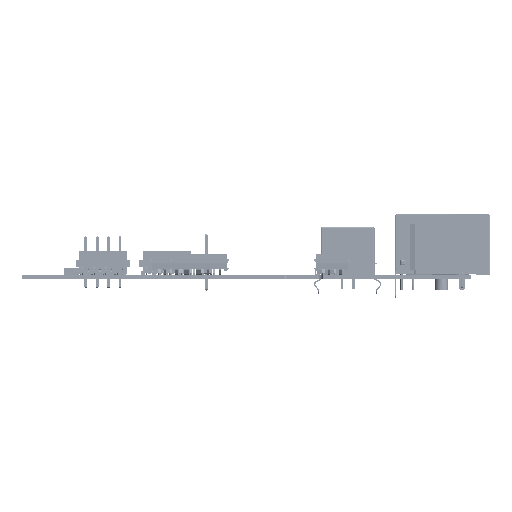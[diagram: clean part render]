
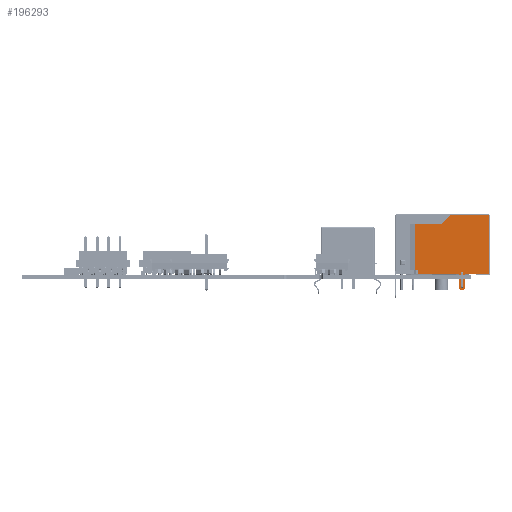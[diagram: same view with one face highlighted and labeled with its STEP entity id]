
A CAD part, left-side view. The second image highlights one B-rep face of the part: STEP entity #196293.
In plain terms, the highlighted planar face has unit normal (-1, 0, 0).
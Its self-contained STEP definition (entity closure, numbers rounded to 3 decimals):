
#196220 = VERTEX_POINT('',#196221);
#196221 = CARTESIAN_POINT('',(7.755,8.808,1.109
    ));
#196227 = EDGE_CURVE('',#196220,#196228,#196230,.T.);
#196228 = VERTEX_POINT('',#196229);
#196229 = CARTESIAN_POINT('',(7.755,9.808,1.109
    ));
#196230 = LINE('',#196231,#196232);
#196231 = CARTESIAN_POINT('',(7.755,9.808,1.109
    ));
#196232 = VECTOR('',#196233,1.);
#196233 = DIRECTION('',(0.,1.,0.));
#196260 = VERTEX_POINT('',#196261);
#196261 = CARTESIAN_POINT('',(7.755,3.48,1.109)
  );
#196276 = VERTEX_POINT('',#196277);
#196277 = CARTESIAN_POINT('',(7.755,2.48,1.109)
  );
#196283 = EDGE_CURVE('',#196276,#196260,#196284,.T.);
#196284 = LINE('',#196285,#196286);
#196285 = CARTESIAN_POINT('',(7.755,9.808,1.109
    ));
#196286 = VECTOR('',#196287,1.);
#196287 = DIRECTION('',(0.,1.,0.));
#196293 = ADVANCED_FACE('',(#196294,#196330),#196459,.T.);
#196294 = FACE_BOUND('',#196295,.T.);
#196295 = EDGE_LOOP('',(#196296,#196306,#196315,#196323));
#196296 = ORIENTED_EDGE('',*,*,#196297,.F.);
#196297 = EDGE_CURVE('',#196298,#196300,#196302,.T.);
#196298 = VERTEX_POINT('',#196299);
#196299 = CARTESIAN_POINT('',(7.755,2.391,
    1.388));
#196300 = VERTEX_POINT('',#196301);
#196301 = CARTESIAN_POINT('',(7.755,2.391,
    -1.59));
#196302 = LINE('',#196303,#196304);
#196303 = CARTESIAN_POINT('',(7.755,2.391,7.649
    ));
#196304 = VECTOR('',#196305,1.);
#196305 = DIRECTION('',(0.,0.,-1.));
#196306 = ORIENTED_EDGE('',*,*,#196307,.F.);
#196307 = EDGE_CURVE('',#196308,#196298,#196310,.T.);
#196308 = VERTEX_POINT('',#196309);
#196309 = CARTESIAN_POINT('',(7.755,1.769,
    1.388));
#196310 = CIRCLE('',#196311,0.311);
#196311 = AXIS2_PLACEMENT_3D('',#196312,#196313,#196314);
#196312 = CARTESIAN_POINT('',(7.755,2.08,
    1.388));
#196313 = DIRECTION('',(-1.,0.,0.));
#196314 = DIRECTION('',(0.,-1.,0.));
#196315 = ORIENTED_EDGE('',*,*,#196316,.F.);
#196316 = EDGE_CURVE('',#196317,#196308,#196319,.T.);
#196317 = VERTEX_POINT('',#196318);
#196318 = CARTESIAN_POINT('',(7.755,1.769,
    -1.59));
#196319 = LINE('',#196320,#196321);
#196320 = CARTESIAN_POINT('',(7.755,1.769,7.649
    ));
#196321 = VECTOR('',#196322,1.);
#196322 = DIRECTION('',(0.,0.,1.));
#196323 = ORIENTED_EDGE('',*,*,#196324,.F.);
#196324 = EDGE_CURVE('',#196300,#196317,#196325,.T.);
#196325 = CIRCLE('',#196326,0.311);
#196326 = AXIS2_PLACEMENT_3D('',#196327,#196328,#196329);
#196327 = CARTESIAN_POINT('',(7.755,2.08,
    -1.59));
#196328 = DIRECTION('',(-1.,0.,0.));
#196329 = DIRECTION('',(0.,-1.,0.));
#196330 = FACE_BOUND('',#196331,.T.);
#196331 = EDGE_LOOP('',(#196332,#196333,#196341,#196349,#196357,#196366,
    #196374,#196382,#196390,#196398,#196406,#196414,#196422,#196430,
    #196438,#196446,#196452,#196453));
#196332 = ORIENTED_EDGE('',*,*,#196283,.F.);
#196333 = ORIENTED_EDGE('',*,*,#196334,.T.);
#196334 = EDGE_CURVE('',#196276,#196335,#196337,.T.);
#196335 = VERTEX_POINT('',#196336);
#196336 = CARTESIAN_POINT('',(7.755,2.48,1.099)
  );
#196337 = LINE('',#196338,#196339);
#196338 = CARTESIAN_POINT('',(7.755,2.48,1.099)
  );
#196339 = VECTOR('',#196340,1.);
#196340 = DIRECTION('',(0.,0.,-1.));
#196341 = ORIENTED_EDGE('',*,*,#196342,.T.);
#196342 = EDGE_CURVE('',#196335,#196343,#196345,.T.);
#196343 = VERTEX_POINT('',#196344);
#196344 = CARTESIAN_POINT('',(7.755,2.78,1.099)
  );
#196345 = LINE('',#196346,#196347);
#196346 = CARTESIAN_POINT('',(7.755,3.48,1.099)
  );
#196347 = VECTOR('',#196348,1.);
#196348 = DIRECTION('',(0.,1.,0.));
#196349 = ORIENTED_EDGE('',*,*,#196350,.T.);
#196350 = EDGE_CURVE('',#196343,#196351,#196353,.T.);
#196351 = VERTEX_POINT('',#196352);
#196352 = CARTESIAN_POINT('',(7.755,2.78,-1.701
    ));
#196353 = LINE('',#196354,#196355);
#196354 = CARTESIAN_POINT('',(7.755,2.78,1.099)
  );
#196355 = VECTOR('',#196356,1.);
#196356 = DIRECTION('',(0.,0.,-1.));
#196357 = ORIENTED_EDGE('',*,*,#196358,.T.);
#196358 = EDGE_CURVE('',#196351,#196359,#196361,.T.);
#196359 = VERTEX_POINT('',#196360);
#196360 = CARTESIAN_POINT('',(7.755,1.38,-1.701
    ));
#196361 = CIRCLE('',#196362,0.7);
#196362 = AXIS2_PLACEMENT_3D('',#196363,#196364,#196365);
#196363 = CARTESIAN_POINT('',(7.755,2.08,-1.701
    ));
#196364 = DIRECTION('',(-1.,0.,0.));
#196365 = DIRECTION('',(0.,1.,0.));
#196366 = ORIENTED_EDGE('',*,*,#196367,.T.);
#196367 = EDGE_CURVE('',#196359,#196368,#196370,.T.);
#196368 = VERTEX_POINT('',#196369);
#196369 = CARTESIAN_POINT('',(7.755,1.38,1.099)
  );
#196370 = LINE('',#196371,#196372);
#196371 = CARTESIAN_POINT('',(7.755,1.38,-1.701
    ));
#196372 = VECTOR('',#196373,1.);
#196373 = DIRECTION('',(0.,0.,1.));
#196374 = ORIENTED_EDGE('',*,*,#196375,.T.);
#196375 = EDGE_CURVE('',#196368,#196376,#196378,.T.);
#196376 = VERTEX_POINT('',#196377);
#196377 = CARTESIAN_POINT('',(7.755,-3.94,1.099
    ));
#196378 = LINE('',#196379,#196380);
#196379 = CARTESIAN_POINT('',(7.755,12.55,1.099
    ));
#196380 = VECTOR('',#196381,1.);
#196381 = DIRECTION('',(0.,-1.,0.));
#196382 = ORIENTED_EDGE('',*,*,#196383,.T.);
#196383 = EDGE_CURVE('',#196376,#196384,#196386,.T.);
#196384 = VERTEX_POINT('',#196385);
#196385 = CARTESIAN_POINT('',(7.755,-3.94,
    14.189));
#196386 = LINE('',#196387,#196388);
#196387 = CARTESIAN_POINT('',(7.755,-3.94,1.099
    ));
#196388 = VECTOR('',#196389,1.);
#196389 = DIRECTION('',(0.,0.,1.));
#196390 = ORIENTED_EDGE('',*,*,#196391,.T.);
#196391 = EDGE_CURVE('',#196384,#196392,#196394,.T.);
#196392 = VERTEX_POINT('',#196393);
#196393 = CARTESIAN_POINT('',(7.755,4.79,14.189
    ));
#196394 = LINE('',#196395,#196396);
#196395 = CARTESIAN_POINT('',(7.755,-4.,
    14.189));
#196396 = VECTOR('',#196397,1.);
#196397 = DIRECTION('',(0.,1.,0.));
#196398 = ORIENTED_EDGE('',*,*,#196399,.F.);
#196399 = EDGE_CURVE('',#196400,#196392,#196402,.T.);
#196400 = VERTEX_POINT('',#196401);
#196401 = CARTESIAN_POINT('',(7.755,6.79,12.189
    ));
#196402 = LINE('',#196403,#196404);
#196403 = CARTESIAN_POINT('',(7.755,6.79,12.189
    ));
#196404 = VECTOR('',#196405,1.);
#196405 = DIRECTION('',(0.,-0.707,
    0.707));
#196406 = ORIENTED_EDGE('',*,*,#196407,.F.);
#196407 = EDGE_CURVE('',#196408,#196400,#196410,.T.);
#196408 = VERTEX_POINT('',#196409);
#196409 = CARTESIAN_POINT('',(7.755,12.549,
    12.189));
#196410 = LINE('',#196411,#196412);
#196411 = CARTESIAN_POINT('',(7.755,16.79,
    12.189));
#196412 = VECTOR('',#196413,1.);
#196413 = DIRECTION('',(0.,-1.,0.));
#196414 = ORIENTED_EDGE('',*,*,#196415,.T.);
#196415 = EDGE_CURVE('',#196408,#196416,#196418,.T.);
#196416 = VERTEX_POINT('',#196417);
#196417 = CARTESIAN_POINT('',(7.755,12.549,
    2.099));
#196418 = LINE('',#196419,#196420);
#196419 = CARTESIAN_POINT('',(7.755,12.549,
    14.189));
#196420 = VECTOR('',#196421,1.);
#196421 = DIRECTION('',(0.,0.,-1.));
#196422 = ORIENTED_EDGE('',*,*,#196423,.F.);
#196423 = EDGE_CURVE('',#196424,#196416,#196426,.T.);
#196424 = VERTEX_POINT('',#196425);
#196425 = CARTESIAN_POINT('',(7.755,11.768,
    2.099));
#196426 = LINE('',#196427,#196428);
#196427 = CARTESIAN_POINT('',(7.755,11.768,
    2.099));
#196428 = VECTOR('',#196429,1.);
#196429 = DIRECTION('',(0.,1.,0.));
#196430 = ORIENTED_EDGE('',*,*,#196431,.F.);
#196431 = EDGE_CURVE('',#196432,#196424,#196434,.T.);
#196432 = VERTEX_POINT('',#196433);
#196433 = CARTESIAN_POINT('',(7.755,11.768,
    1.099));
#196434 = LINE('',#196435,#196436);
#196435 = CARTESIAN_POINT('',(7.755,11.768,
    1.099));
#196436 = VECTOR('',#196437,1.);
#196437 = DIRECTION('',(0.,0.,1.));
#196438 = ORIENTED_EDGE('',*,*,#196439,.T.);
#196439 = EDGE_CURVE('',#196432,#196440,#196442,.T.);
#196440 = VERTEX_POINT('',#196441);
#196441 = CARTESIAN_POINT('',(7.755,9.808,1.099
    ));
#196442 = LINE('',#196443,#196444);
#196443 = CARTESIAN_POINT('',(7.755,12.55,1.099
    ));
#196444 = VECTOR('',#196445,1.);
#196445 = DIRECTION('',(0.,-1.,0.));
#196446 = ORIENTED_EDGE('',*,*,#196447,.F.);
#196447 = EDGE_CURVE('',#196228,#196440,#196448,.T.);
#196448 = LINE('',#196449,#196450);
#196449 = CARTESIAN_POINT('',(7.755,9.808,1.099
    ));
#196450 = VECTOR('',#196451,1.);
#196451 = DIRECTION('',(0.,0.,-1.));
#196452 = ORIENTED_EDGE('',*,*,#196227,.F.);
#196453 = ORIENTED_EDGE('',*,*,#196454,.T.);
#196454 = EDGE_CURVE('',#196220,#196260,#196455,.T.);
#196455 = LINE('',#196456,#196457);
#196456 = CARTESIAN_POINT('',(7.755,8.808,1.109
    ));
#196457 = VECTOR('',#196458,1.);
#196458 = DIRECTION('',(0.,-1.,0.));
#196459 = PLANE('',#196460);
#196460 = AXIS2_PLACEMENT_3D('',#196461,#196462,#196463);
#196461 = CARTESIAN_POINT('',(7.755,6.42,7.649));
#196462 = DIRECTION('',(-1.,0.,0.));
#196463 = DIRECTION('',(0.,1.,0.));
